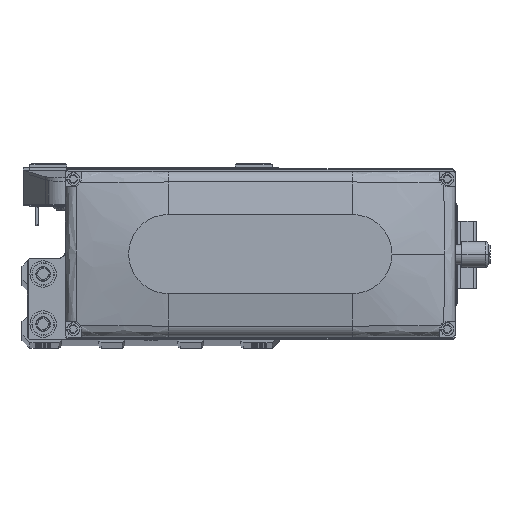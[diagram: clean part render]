
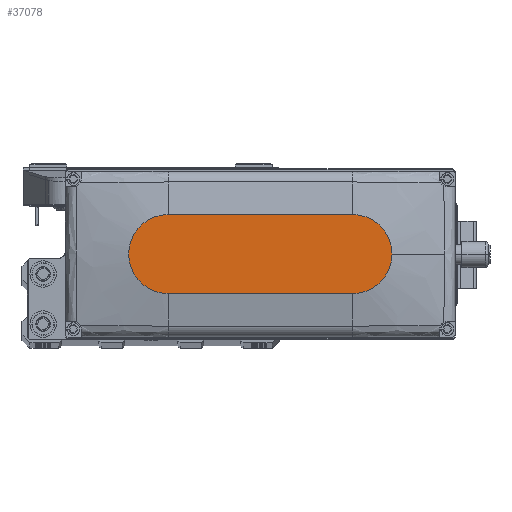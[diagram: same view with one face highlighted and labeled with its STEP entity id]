
A CAD part, top view. The second image highlights one B-rep face of the part: STEP entity #37078.
In plain terms, the highlighted planar face has unit normal (0, 0, 1).
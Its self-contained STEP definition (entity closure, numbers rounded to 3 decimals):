
#355 = VECTOR ( 'NONE', #34220, 1000. ) ;
#415 = EDGE_LOOP ( 'NONE', ( #44631, #38175, #18482, #718, #17499 ) ) ;
#718 = ORIENTED_EDGE ( 'NONE', *, *, #6134, .T. ) ;
#2229 = CIRCLE ( 'NONE', #30146, 15. ) ;
#2378 = LINE ( 'NONE', #13846, #44590 ) ;
#2428 = CARTESIAN_POINT ( 'NONE',  ( 35., -15., 35. ) ) ;
#3014 = VERTEX_POINT ( 'NONE', #2428 ) ;
#3740 = LINE ( 'NONE', #18970, #355 ) ;
#4409 = AXIS2_PLACEMENT_3D ( 'NONE', #44498, #10260, #25476 ) ;
#4651 = EDGE_CURVE ( 'NONE', #11503, #3014, #2378, .T. ) ;
#6134 = EDGE_CURVE ( 'NONE', #3014, #13283, #39148, .T. ) ;
#8115 = DIRECTION ( 'NONE',  ( 1., 0., 0. ) ) ;
#10111 = CARTESIAN_POINT ( 'NONE',  ( 35., 15., 35. ) ) ;
#10260 = DIRECTION ( 'NONE',  ( 0., 0., 1. ) ) ;
#10475 = CARTESIAN_POINT ( 'NONE',  ( -35., -15., 35. ) ) ;
#10762 = CARTESIAN_POINT ( 'NONE',  ( -35., 15., 35. ) ) ;
#11503 = VERTEX_POINT ( 'NONE', #10475 ) ;
#11651 = CARTESIAN_POINT ( 'NONE',  ( -35., 0., 35. ) ) ;
#13283 = VERTEX_POINT ( 'NONE', #41659 ) ;
#13312 = DIRECTION ( 'NONE',  ( 0., 0., 1. ) ) ;
#13846 = CARTESIAN_POINT ( 'NONE',  ( -35., -15., 35. ) ) ;
#16312 = EDGE_CURVE ( 'NONE', #28132, #48680, #3740, .T. ) ;
#17043 = FACE_OUTER_BOUND ( 'NONE', #415, .T. ) ;
#17499 = ORIENTED_EDGE ( 'NONE', *, *, #46131, .T. ) ;
#17571 = AXIS2_PLACEMENT_3D ( 'NONE', #27083, #42365, #8115 ) ;
#18482 = ORIENTED_EDGE ( 'NONE', *, *, #4651, .T. ) ;
#18970 = CARTESIAN_POINT ( 'NONE',  ( -35., 15., 35. ) ) ;
#25476 = DIRECTION ( 'NONE',  ( 1., 0., 0. ) ) ;
#25929 = CIRCLE ( 'NONE', #4409, 15. ) ;
#26869 = DIRECTION ( 'NONE',  ( 0., 0., 1. ) ) ;
#26964 = AXIS2_PLACEMENT_3D ( 'NONE', #47562, #13312, #28552 ) ;
#27083 = CARTESIAN_POINT ( 'NONE',  ( 35., 0., 35. ) ) ;
#28132 = VERTEX_POINT ( 'NONE', #10111 ) ;
#28552 = DIRECTION ( 'NONE',  ( 1., 0., 0. ) ) ;
#29087 = DIRECTION ( 'NONE',  ( 1., 0., 0. ) ) ;
#30146 = AXIS2_PLACEMENT_3D ( 'NONE', #11651, #26869, #42152 ) ;
#32288 = PLANE ( 'NONE',  #26964 ) ;
#34220 = DIRECTION ( 'NONE',  ( -1., 0., 0. ) ) ;
#35283 = EDGE_CURVE ( 'NONE', #48680, #11503, #2229, .T. ) ;
#37078 = ADVANCED_FACE ( 'NONE', ( #17043 ), #32288, .T. ) ;
#38175 = ORIENTED_EDGE ( 'NONE', *, *, #35283, .T. ) ;
#39148 = CIRCLE ( 'NONE', #17571, 15. ) ;
#41659 = CARTESIAN_POINT ( 'NONE',  ( 50., 0., 35. ) ) ;
#42152 = DIRECTION ( 'NONE',  ( 1., 0., 0. ) ) ;
#42365 = DIRECTION ( 'NONE',  ( 0., 0., 1. ) ) ;
#44498 = CARTESIAN_POINT ( 'NONE',  ( 35., 0., 35. ) ) ;
#44590 = VECTOR ( 'NONE', #29087, 1000. ) ;
#44631 = ORIENTED_EDGE ( 'NONE', *, *, #16312, .T. ) ;
#46131 = EDGE_CURVE ( 'NONE', #13283, #28132, #25929, .T. ) ;
#47562 = CARTESIAN_POINT ( 'NONE',  ( 0., 0., 35. ) ) ;
#48680 = VERTEX_POINT ( 'NONE', #10762 ) ;
